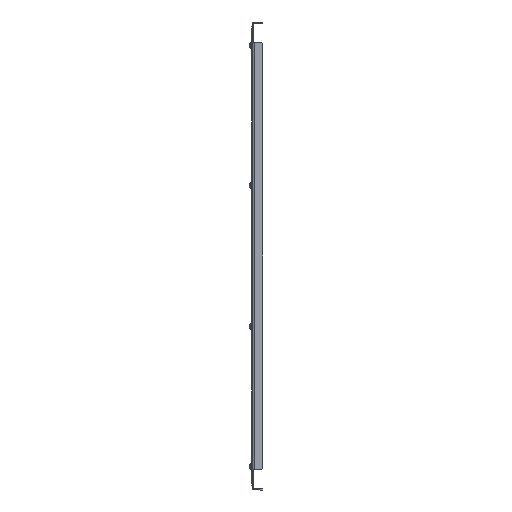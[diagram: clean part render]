
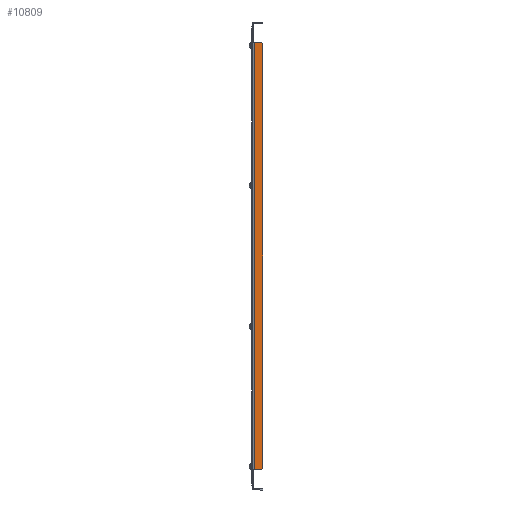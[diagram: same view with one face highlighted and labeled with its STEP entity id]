
A CAD part, left-side view. The second image highlights one B-rep face of the part: STEP entity #10809.
In plain terms, the highlighted planar face has unit normal (-1, 0, 0).
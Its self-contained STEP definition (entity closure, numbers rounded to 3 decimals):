
#118 = PLANE ( 'NONE',  #11270 ) ;
#339 = DIRECTION ( 'NONE',  ( 0., 1., 0. ) ) ;
#840 = ORIENTED_EDGE ( 'NONE', *, *, #7788, .T. ) ;
#1003 = CARTESIAN_POINT ( 'NONE',  ( -14., 0., 0. ) ) ;
#1494 = LINE ( 'NONE', #6659, #10612 ) ;
#1799 = CARTESIAN_POINT ( 'NONE',  ( -14., -15., -316. ) ) ;
#1888 = DIRECTION ( 'NONE',  ( 1., 0., 0. ) ) ;
#2325 = EDGE_CURVE ( 'NONE', #5759, #10255, #8260, .T. ) ;
#2826 = VERTEX_POINT ( 'NONE', #4146 ) ;
#2847 = VECTOR ( 'NONE', #7419, 1000. ) ;
#3016 = DIRECTION ( 'NONE',  ( 0., -1., 0. ) ) ;
#3072 = VERTEX_POINT ( 'NONE', #6238 ) ;
#3412 = LINE ( 'NONE', #9241, #7911 ) ;
#3433 = CARTESIAN_POINT ( 'NONE',  ( -14., -13., 318. ) ) ;
#4146 = CARTESIAN_POINT ( 'NONE',  ( -14., -13., -318. ) ) ;
#4381 = VECTOR ( 'NONE', #7913, 1000. ) ;
#4484 = CARTESIAN_POINT ( 'NONE',  ( -14., -2.1, 318. ) ) ;
#4695 = CARTESIAN_POINT ( 'NONE',  ( -14., -15., -316. ) ) ;
#4772 = CARTESIAN_POINT ( 'NONE',  ( -14., -15., 316. ) ) ;
#4794 = DIRECTION ( 'NONE',  ( 0., 0., -1. ) ) ;
#4820 = EDGE_CURVE ( 'NONE', #2826, #3072, #3412, .T. ) ;
#5375 = DIRECTION ( 'NONE',  ( 0., 0., 1. ) ) ;
#5759 = VERTEX_POINT ( 'NONE', #4772 ) ;
#6238 = CARTESIAN_POINT ( 'NONE',  ( -14., -2.1, -318. ) ) ;
#6287 = ORIENTED_EDGE ( 'NONE', *, *, #6480, .F. ) ;
#6320 = LINE ( 'NONE', #4484, #10677 ) ;
#6364 = CARTESIAN_POINT ( 'NONE',  ( -14., -15., 318. ) ) ;
#6480 = EDGE_CURVE ( 'NONE', #7564, #8428, #1494, .T. ) ;
#6659 = CARTESIAN_POINT ( 'NONE',  ( -14., -1.5, 318. ) ) ;
#7116 = EDGE_LOOP ( 'NONE', ( #7997, #840, #9609, #10199, #6287, #8536 ) ) ;
#7419 = DIRECTION ( 'NONE',  ( 0., -0.707, 0.707 ) ) ;
#7564 = VERTEX_POINT ( 'NONE', #11350 ) ;
#7788 = EDGE_CURVE ( 'NONE', #2826, #10255, #9946, .T. ) ;
#7911 = VECTOR ( 'NONE', #339, 1000. ) ;
#7913 = DIRECTION ( 'NONE',  ( 0., 0.707, 0.707 ) ) ;
#7997 = ORIENTED_EDGE ( 'NONE', *, *, #4820, .F. ) ;
#8164 = DIRECTION ( 'NONE',  ( 0., 1., 0. ) ) ;
#8260 = LINE ( 'NONE', #6364, #10535 ) ;
#8428 = VERTEX_POINT ( 'NONE', #10035 ) ;
#8536 = ORIENTED_EDGE ( 'NONE', *, *, #10734, .F. ) ;
#9128 = EDGE_CURVE ( 'NONE', #5759, #8428, #11092, .T. ) ;
#9241 = CARTESIAN_POINT ( 'NONE',  ( -14., -15., -318. ) ) ;
#9609 = ORIENTED_EDGE ( 'NONE', *, *, #2325, .F. ) ;
#9946 = LINE ( 'NONE', #4695, #2847 ) ;
#10035 = CARTESIAN_POINT ( 'NONE',  ( -14., -13., 318. ) ) ;
#10169 = FACE_OUTER_BOUND ( 'NONE', #7116, .T. ) ;
#10199 = ORIENTED_EDGE ( 'NONE', *, *, #9128, .T. ) ;
#10255 = VERTEX_POINT ( 'NONE', #1799 ) ;
#10535 = VECTOR ( 'NONE', #4794, 1000. ) ;
#10612 = VECTOR ( 'NONE', #3016, 1000. ) ;
#10677 = VECTOR ( 'NONE', #5375, 1000. ) ;
#10734 = EDGE_CURVE ( 'NONE', #3072, #7564, #6320, .T. ) ;
#10809 = ADVANCED_FACE ( 'NONE', ( #10169 ), #118, .F. ) ;
#11092 = LINE ( 'NONE', #3433, #4381 ) ;
#11270 = AXIS2_PLACEMENT_3D ( 'NONE', #1003, #1888, #8164 ) ;
#11350 = CARTESIAN_POINT ( 'NONE',  ( -14., -2.1, 318. ) ) ;
